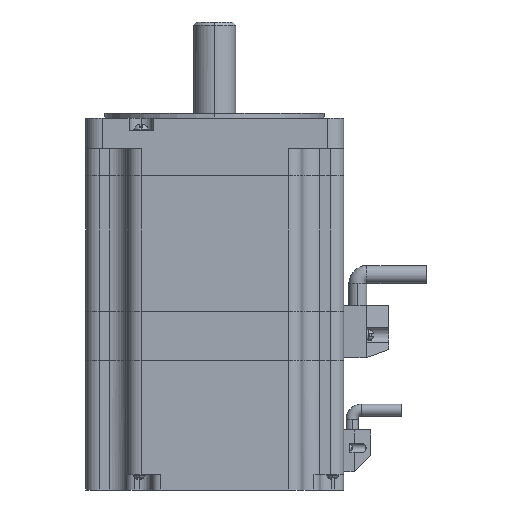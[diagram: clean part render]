
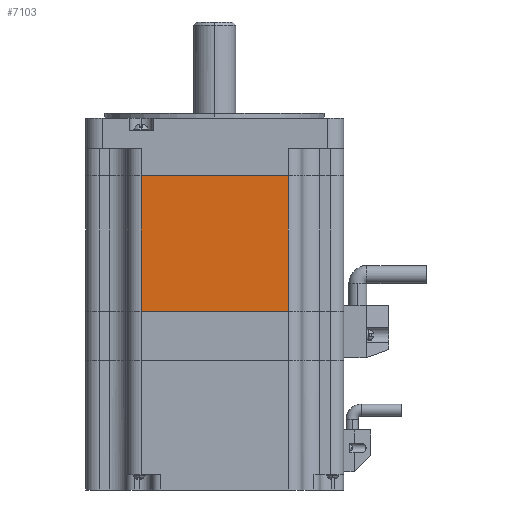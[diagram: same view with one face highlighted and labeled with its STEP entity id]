
A CAD part, left-side view. The second image highlights one B-rep face of the part: STEP entity #7103.
In plain terms, the highlighted planar face has unit normal (-1, 0, 0).
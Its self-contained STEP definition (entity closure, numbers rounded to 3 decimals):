
#792 = VECTOR ( 'NONE', #2662, 1000. ) ;
#1210 = EDGE_LOOP ( 'NONE', ( #18233, #18700, #18486, #18379 ) ) ;
#1707 = VECTOR ( 'NONE', #2442, 1000. ) ;
#1762 = VECTOR ( 'NONE', #2626, 1000. ) ;
#1832 = VECTOR ( 'NONE', #2145, 1000. ) ;
#2143 = LINE ( 'NONE', #2144, #1832 ) ;
#2144 = CARTESIAN_POINT ( 'NONE',  ( -9.574, 48.467, 22.5 ) ) ;
#2145 = DIRECTION ( 'NONE',  ( 0., -1., 0. ) ) ;
#2440 = LINE ( 'NONE', #2441, #1707 ) ;
#2441 = CARTESIAN_POINT ( 'NONE',  ( -9.574, 30.067, 22.5 ) ) ;
#2442 = DIRECTION ( 'NONE',  ( 0., 0., -1. ) ) ;
#2624 = LINE ( 'NONE', #2625, #1762 ) ;
#2625 = CARTESIAN_POINT ( 'NONE',  ( -9.574, -18.933, 22.5 ) ) ;
#2626 = DIRECTION ( 'NONE',  ( 0., 0., -1. ) ) ;
#2660 = LINE ( 'NONE', #2661, #792 ) ;
#2661 = CARTESIAN_POINT ( 'NONE',  ( -9.574, 48.467, -22.5 ) ) ;
#2662 = DIRECTION ( 'NONE',  ( 0., -1., 0. ) ) ;
#3415 = EDGE_CURVE ( 'NONE', #6288, #6287, #2143, .T. ) ;
#3514 = EDGE_CURVE ( 'NONE', #6288, #6289, #2440, .T. ) ;
#3570 = EDGE_CURVE ( 'NONE', #6287, #6285, #2624, .T. ) ;
#3582 = EDGE_CURVE ( 'NONE', #6289, #6285, #2660, .T. ) ;
#6285 = VERTEX_POINT ( 'NONE', #10826 ) ;
#6287 = VERTEX_POINT ( 'NONE', #10828 ) ;
#6288 = VERTEX_POINT ( 'NONE', #10829 ) ;
#6289 = VERTEX_POINT ( 'NONE', #10830 ) ;
#7103 = ADVANCED_FACE ( 'NONE', ( #15237 ), #8103, .F. ) ;
#8103 = PLANE ( 'NONE',  #17793 ) ;
#8116 = CARTESIAN_POINT ( 'NONE',  ( -9.574, 48.467, 22.5 ) ) ;
#8117 = DIRECTION ( 'NONE',  ( 1., 0., 0. ) ) ;
#8118 = DIRECTION ( 'NONE',  ( 0., 1., 0. ) ) ;
#10826 = CARTESIAN_POINT ( 'NONE',  ( -9.574, -18.933, -22.5 ) ) ;
#10828 = CARTESIAN_POINT ( 'NONE',  ( -9.574, -18.933, 22.5 ) ) ;
#10829 = CARTESIAN_POINT ( 'NONE',  ( -9.574, 30.067, 22.5 ) ) ;
#10830 = CARTESIAN_POINT ( 'NONE',  ( -9.574, 30.067, -22.5 ) ) ;
#15237 = FACE_OUTER_BOUND ( 'NONE', #1210, .T. ) ;
#17793 = AXIS2_PLACEMENT_3D ( 'NONE', #8116, #8117, #8118 ) ;
#18233 = ORIENTED_EDGE ( 'NONE', *, *, #3570, .F. ) ;
#18379 = ORIENTED_EDGE ( 'NONE', *, *, #3582, .T. ) ;
#18486 = ORIENTED_EDGE ( 'NONE', *, *, #3514, .T. ) ;
#18700 = ORIENTED_EDGE ( 'NONE', *, *, #3415, .F. ) ;
